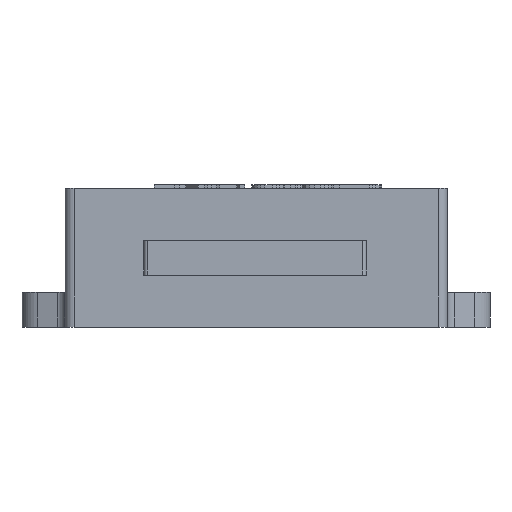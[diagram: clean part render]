
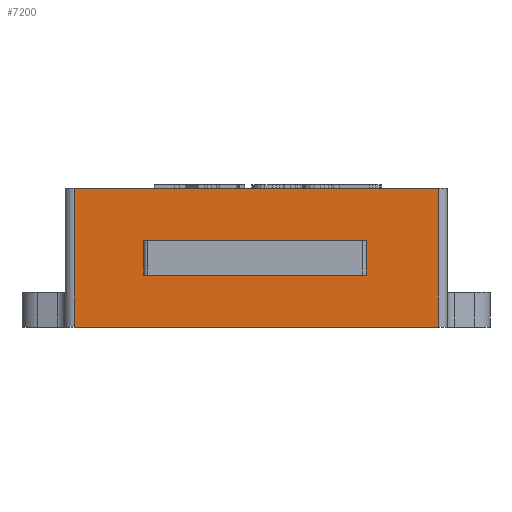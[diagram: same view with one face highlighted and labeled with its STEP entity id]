
A CAD part, front view. The second image highlights one B-rep face of the part: STEP entity #7200.
In plain terms, the highlighted planar face has unit normal (0, -1, 0).
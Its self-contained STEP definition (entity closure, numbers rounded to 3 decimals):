
#668=DIRECTION('',(1.,0.,0.));
#669=VECTOR('',#668,52.4);
#670=CARTESIAN_POINT('',(-27.04,-26.414,20.));
#671=LINE('',#670,#669);
#1745=DIRECTION('',(1.,0.,0.));
#1746=VECTOR('',#1745,52.4);
#1747=CARTESIAN_POINT('',(-27.04,-26.414,0.));
#1748=LINE('',#1747,#1746);
#2007=DIRECTION('',(-1.,0.,0.));
#2008=VECTOR('',#2007,32.);
#2009=CARTESIAN_POINT('',(15.002,-26.414,12.5));
#2010=LINE('',#2009,#2008);
#2011=DIRECTION('',(0.,0.,-1.));
#2012=VECTOR('',#2011,5.);
#2013=CARTESIAN_POINT('',(-16.998,-26.414,12.5));
#2014=LINE('',#2013,#2012);
#2015=DIRECTION('',(-1.,0.,0.));
#2016=VECTOR('',#2015,32.);
#2017=CARTESIAN_POINT('',(15.002,-26.414,7.5));
#2018=LINE('',#2017,#2016);
#2019=DIRECTION('',(0.,0.,-1.));
#2020=VECTOR('',#2019,5.);
#2021=CARTESIAN_POINT('',(15.002,-26.414,12.5));
#2022=LINE('',#2021,#2020);
#2023=DIRECTION('',(0.,0.,-1.));
#2024=VECTOR('',#2023,20.);
#2025=CARTESIAN_POINT('',(25.36,-26.414,20.));
#2026=LINE('',#2025,#2024);
#2027=DIRECTION('',(0.,0.,-1.));
#2028=VECTOR('',#2027,20.);
#2029=CARTESIAN_POINT('',(-27.04,-26.414,20.));
#2030=LINE('',#2029,#2028);
#4867=CARTESIAN_POINT('',(15.002,-26.414,12.5));
#4868=CARTESIAN_POINT('',(-16.998,-26.414,12.5));
#4869=VERTEX_POINT('',#4867);
#4870=VERTEX_POINT('',#4868);
#4871=CARTESIAN_POINT('',(15.002,-26.414,7.5));
#4872=CARTESIAN_POINT('',(-16.998,-26.414,7.5));
#4873=VERTEX_POINT('',#4871);
#4874=VERTEX_POINT('',#4872);
#5108=CARTESIAN_POINT('',(25.36,-26.414,0.));
#5110=VERTEX_POINT('',#5108);
#5111=CARTESIAN_POINT('',(25.36,-26.414,20.));
#5112=VERTEX_POINT('',#5111);
#5115=CARTESIAN_POINT('',(-27.04,-26.414,0.));
#5117=VERTEX_POINT('',#5115);
#5121=CARTESIAN_POINT('',(-27.04,-26.414,20.));
#5122=VERTEX_POINT('',#5121);
#7178=CARTESIAN_POINT('',(-28.34,-26.414,0.));
#7179=DIRECTION('',(0.,-1.,0.));
#7180=DIRECTION('',(1.,0.,0.));
#7181=AXIS2_PLACEMENT_3D('',#7178,#7179,#7180);
#7182=PLANE('',#7181);
#7183=ORIENTED_EDGE('',*,*,#7171,.T.);
#7184=ORIENTED_EDGE('',*,*,#6755,.F.);
#7186=ORIENTED_EDGE('',*,*,#7185,.F.);
#7187=ORIENTED_EDGE('',*,*,#6174,.T.);
#7188=EDGE_LOOP('',(#7183,#7184,#7186,#7187));
#7189=FACE_OUTER_BOUND('',#7188,.F.);
#7191=ORIENTED_EDGE('',*,*,#7190,.T.);
#7193=ORIENTED_EDGE('',*,*,#7192,.T.);
#7195=ORIENTED_EDGE('',*,*,#7194,.F.);
#7197=ORIENTED_EDGE('',*,*,#7196,.F.);
#7198=EDGE_LOOP('',(#7191,#7193,#7195,#7197));
#7199=FACE_BOUND('',#7198,.F.);
#7200=ADVANCED_FACE('',(#7189,#7199),#7182,.T.);
#6174=EDGE_CURVE('',#5122,#5112,#671,.T.);
#6755=EDGE_CURVE('',#5117,#5110,#1748,.T.);
#7171=EDGE_CURVE('',#5112,#5110,#2026,.T.);
#7185=EDGE_CURVE('',#5122,#5117,#2030,.T.);
#7190=EDGE_CURVE('',#4869,#4870,#2010,.T.);
#7192=EDGE_CURVE('',#4870,#4874,#2014,.T.);
#7194=EDGE_CURVE('',#4873,#4874,#2018,.T.);
#7196=EDGE_CURVE('',#4869,#4873,#2022,.T.);
